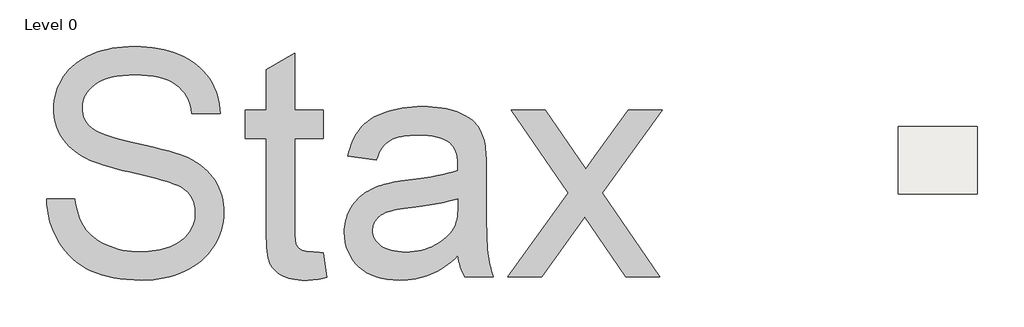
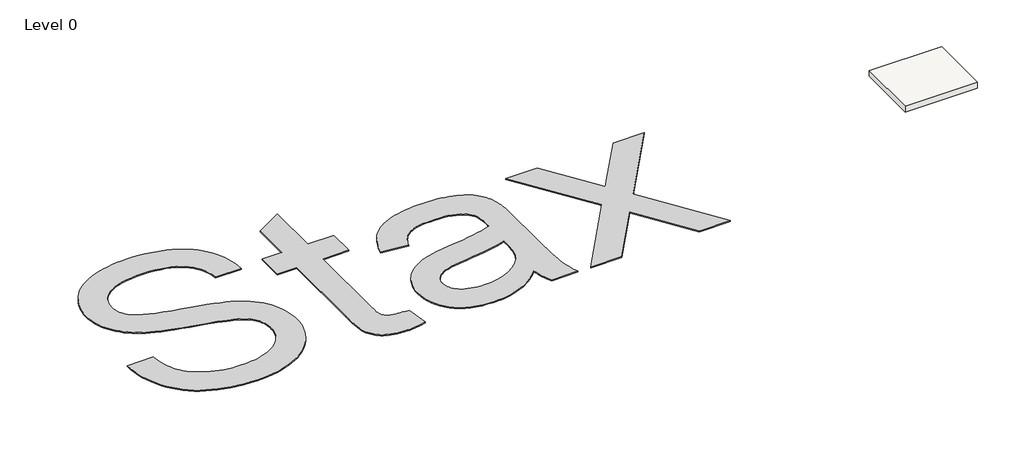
# One storey, incomplete: 1 proxy, 1 slab.
"""IFC4 building model written with IfcOpenShell, lengths in millimetres."""

import ifcopenshell
import ifcopenshell.guid

model = None  # the IFC model being written
_history = None  # IfcOwnerHistory: only IFC2X3 demands one
_inside = {}  # id of a spatial element -> (the spatial element, [elements in it])
_under = {}  # id of a project, library or spatial element -> (it, [spatial elements below it])
_declared = {}  # id of a project -> (the project, [libraries it declares])
_typed = {}  # id of a type object -> (the type object, [elements of that type])
_made_of = {}  # id of a material, layer set ... -> (it, [elements and type objects made of it])


def new_model(schema):
    """Start an empty IFC model of exactly this schema.

    Asked for "IFC4X3", IfcOpenShell would pick the latest addendum, in which some entities
    have other attributes; the version numbers below select the first issue.
    IFC2X3 requires an IfcOwnerHistory on every rooted entity: one is made here for all.
    """
    global model, _history
    if schema == "IFC4X3":
        model = ifcopenshell.file(schema_version=(4, 3, 0, 0))
    else:
        model = ifcopenshell.file(schema=schema)
    _inside.clear()
    _under.clear()
    _declared.clear()
    _typed.clear()
    _made_of.clear()
    _history = None
    if model.schema == "IFC2X3":
        org = make("IfcOrganization", Name="unknown")
        user = make(
            "IfcPersonAndOrganization",
            ThePerson=make("IfcPerson", FamilyName="unknown"),
            TheOrganization=org,
        )
        app = make(
            "IfcApplication",
            ApplicationDeveloper=org,
            Version="unknown",
            ApplicationFullName="unknown",
            ApplicationIdentifier="unknown",
        )
        _history = make(
            "IfcOwnerHistory",
            OwningUser=user,
            OwningApplication=app,
            ChangeAction="ADDED",
            CreationDate=0,
        )
    return model


def make(cls, **values):
    """One entity of the class cls with the attributes given. An attribute that is None is left unset."""
    return model.create_entity(
        cls, **{name: value for name, value in values.items() if value is not None}
    )


def rooted(cls, **values):
    """An entity with a GlobalId (a new one), such as an element, a storey or a relation."""
    return make(cls, GlobalId=ifcopenshell.guid.new(), OwnerHistory=_history, **values)


def si_unit(unit_type, name, prefix=None):
    """IfcSIUnit, for example si_unit("LENGTHUNIT", "METRE", prefix="MILLI")."""
    return make("IfcSIUnit", UnitType=unit_type, Prefix=prefix, Name=name)


def assignment(units):
    """IfcUnitAssignment: the units of a project."""
    return None if units is None else make("IfcUnitAssignment", Units=units)


def point(xyz):
    """IfcCartesianPoint."""
    return None if xyz is None else make("IfcCartesianPoint", Coordinates=xyz)


def direction(xyz):
    """IfcDirection."""
    return None if xyz is None else make("IfcDirection", DirectionRatios=xyz)


def frame(location, z_axis=None, x_axis=None):
    """IfcAxis2Placement3D, a coordinate frame: its origin and axes. An axis left out is left unset."""
    return make(
        "IfcAxis2Placement3D",
        Location=point(location),
        Axis=direction(z_axis),
        RefDirection=direction(x_axis),
    )


def origin():
    """The frame at (0, 0, 0) with its axes left unset."""
    return frame((0.0, 0.0, 0.0))


def origin_with_axes():
    """The frame at (0, 0, 0) with the z axis (0, 0, 1) and the x axis (1, 0, 0) written out."""
    return frame((0.0, 0.0, 0.0), z_axis=(0.0, 0.0, 1.0), x_axis=(1.0, 0.0, 0.0))


def place(relative_to, where):
    """IfcLocalPlacement: puts the frame where relative to a parent placement (None: the world)."""
    return make(
        "IfcLocalPlacement", PlacementRelTo=relative_to, RelativePlacement=where
    )


def context(
    kind, dimensions, precision=None, world=None, true_north=None, identifier=None
):
    """IfcGeometricRepresentationContext, for example the 3D "Model" context."""
    return make(
        "IfcGeometricRepresentationContext",
        ContextIdentifier=identifier,
        ContextType=kind,
        CoordinateSpaceDimension=dimensions,
        Precision=precision,
        WorldCoordinateSystem=world,
        TrueNorth=true_north,
    )


def project(units=None, contexts=None):
    """IfcProject with its units and contexts."""
    return rooted(
        "IfcProject",
        Name="project",
        RepresentationContexts=contexts,
        UnitsInContext=assignment(units),
    )


def spatial(cls, under=None, at=None, **own):
    """A site, building, storey or space (cls), placed at a placement, below another one or the project."""
    s = rooted(cls, ObjectPlacement=at, **own)
    if under is not None:
        _under.setdefault(under.id(), (under, []))[1].append(s)
    return s


def polyline(points):
    """IfcPolyline through the points."""
    return make("IfcPolyline", Points=[point(p) for p in points])


def outline(outer, holes=None, kind="AREA"):
    """IfcArbitraryClosedProfileDef: a profile drawn as a closed curve; with holes, ...WithVoids."""
    if holes is None:
        return make("IfcArbitraryClosedProfileDef", ProfileType=kind, OuterCurve=outer)
    return make(
        "IfcArbitraryProfileDefWithVoids",
        ProfileType=kind,
        OuterCurve=outer,
        InnerCurves=holes,
    )


def extrude(swept, where, along, depth):
    """IfcExtrudedAreaSolid: the profile swept, set in the frame where, extruded along a direction by depth."""
    return make(
        "IfcExtrudedAreaSolid",
        SweptArea=swept,
        Position=where,
        ExtrudedDirection=direction(along),
        Depth=depth,
    )


def shape(context_of_items, identifier, shape_type, items):
    """IfcShapeRepresentation: the items that make up one representation, for example the "Body"."""
    return make(
        "IfcShapeRepresentation",
        ContextOfItems=context_of_items,
        RepresentationIdentifier=identifier,
        RepresentationType=shape_type,
        Items=items,
    )


def made_of(thing, what):
    """Note that an element or type object is made of a material, layer set ...; save() writes the relation."""
    if what is not None:
        _made_of.setdefault(what.id(), (what, []))[1].append(thing)
    return thing


def element(
    cls,
    number,
    at=None,
    inside=None,
    cuts=None,
    type_object=None,
    material=None,
    context=None,
    identifier="Body",
    shape_type=None,
    held_by="IfcProductDefinitionShape",
    body=None,
    shapes=None,
    **own,
):
    """One element of the class cls, such as IfcWall. Its Tag is "e" and its number.

    at: its placement. inside: the storey or other place that contains it. cuts: it is an
    opening in that element (IfcRelVoidsElement). A single representation is given by context,
    identifier, shape_type and body (its items); several are given by shapes. held_by: the class
    of the entity that holds the representations. save() writes the other relations.
    """
    e = rooted(cls, Tag="e%d" % number, ObjectPlacement=at, **own)
    if body is not None:
        shapes = [shape(context, identifier, shape_type, body)]
    if shapes is not None:
        e.Representation = make(held_by, Representations=shapes)
    if inside is not None:
        _inside.setdefault(inside.id(), (inside, []))[1].append(e)
    if cuts is not None:
        rooted(
            "IfcRelVoidsElement", RelatingBuildingElement=cuts, RelatedOpeningElement=e
        )
    if type_object is not None:
        _typed.setdefault(type_object.id(), (type_object, []))[1].append(e)
    return made_of(e, material)


def aggregate(whole, parts):
    """IfcRelAggregates: a whole, such as a stair, and the parts it consists of."""
    return rooted("IfcRelAggregates", RelatingObject=whole, RelatedObjects=parts)


def save(model, path):
    """Write the relations noted so far, then the file.

    IfcRelAggregates (storeys below a building ...), IfcRelContainedInSpatialStructure (elements
    in a storey), IfcRelDefinesByType, IfcRelAssociatesMaterial and IfcRelDeclares: one each for
    every whole, place, type object, material and project.
    """
    for whole, parts in _under.values():
        aggregate(whole, parts)
    for where, things in _inside.values():
        rooted(
            "IfcRelContainedInSpatialStructure",
            RelatedElements=things,
            RelatingStructure=where,
        )
    for kind, things in _typed.values():
        rooted("IfcRelDefinesByType", RelatedObjects=things, RelatingType=kind)
    for what, things in _made_of.values():
        rooted("IfcRelAssociatesMaterial", RelatedObjects=things, RelatingMaterial=what)
    for by, libraries in _declared.values():
        rooted("IfcRelDeclares", RelatingContext=by, RelatedDefinitions=libraries)
    model.write(path)


model = new_model("IFC4")

# Units and contexts
model_context = context("Model", 3, world=origin())
ifc_project = project(units=[si_unit("LENGTHUNIT", "METRE", prefix="MILLI")], contexts=[model_context])

# Site, building, storey
site = spatial("IfcSite", under=ifc_project)
building = spatial("IfcBuilding", under=site)
storey = spatial("IfcBuildingStorey", under=building, Name="Level 0", Elevation=0.0)

# Proxy
placement = place(None, origin())
element("IfcBuildingElementProxy", 1, Name="10 mm", ObjectType="10 mm", at=placement, inside=storey, context=model_context, shape_type="SweptSolid", body=[
    extrude(outline(polyline([(-142754.6679386, 74163.6124008), (-141498.9640618, 74163.6124008), (-141473.8637798, 73976.5865594), (-141441.4825, 73798.1063102), (-141401.8202224, 73628.1716531), (-141354.876947, 73466.7825883), (-141300.6526737, 73313.9391156), (-141239.1474027, 73169.6412351), (-141170.3611338, 73033.8889468), (-141094.2938671, 72906.6822506), (-141009.1061926, 72786.6990707), (-140912.9587003, 72672.6173312), (-140805.8513902, 72564.437032), (-140687.7842624, 72462.1581731), (-140558.7573168, 72365.7807546), (-140418.7705534, 72275.3047764), (-140267.8239723, 72190.7302385), (-140105.9175734, 72112.057141), (-139935.9254348, 72041.0674123), (-139760.7216345, 71979.5429807), (-139580.3061727, 71927.4838463), (-139394.6790493, 71884.890009), (-139203.8402643, 71851.7614689), (-139007.7898178, 71828.098226), (-138806.5277096, 71813.9002803), (-138600.0539398, 71809.1676317), (-138416.9943261, 71812.750649), (-138239.3763003, 71823.4997011), (-138067.1998624, 71841.4147878), (-137900.4650123, 71866.4959093), (-137739.17175, 71898.7430654), (-137583.3200756, 71938.1562562), (-137432.909989, 71984.7354818), (-137287.9414903, 72038.480742), (-137150.2348289, 72098.4914925), (-137021.6102542, 72163.8671887), (-136902.0677663, 72234.6078307), (-136791.6073651, 72310.7134184), (-136690.2290507, 72392.1839519), (-136597.9328231, 72479.0194312), (-136514.7186822, 72571.2198563), (-136440.5866281, 72668.7852271), (-136375.3450555, 72769.6653679), (-136318.8023593, 72871.8101032), (-136270.9585394, 72975.2194327), (-136231.8135958, 73079.8933567), (-136201.3675286, 73185.831875), (-136179.6203377, 73293.0349876), (-136166.5720232, 73401.5026946), (-136162.2225851, 73511.234996), (-136165.4798736, 73621.6570761), (-136175.2517391, 73728.5152994), (-136191.5381816, 73831.8096659), (-136214.339201, 73931.5401755), (-136243.6547975, 74027.7068283), (-136279.484971, 74120.3096243), (-136321.8297215, 74209.3485634), (-136370.689049, 74294.8236457), (-136429.6268103, 74376.9647975), (-136502.2068623, 74456.0019449), (-136588.4292049, 74531.935088), (-136688.2938382, 74604.7642267), (-136801.8007621, 74674.4893611), (-136928.9499767, 74741.1104911), (-137069.7414819, 74804.6276169), (-137224.1752778, 74865.0407383), (-137342.8747028, 74906.3316601), (-137492.9590605, 74952.9492067), (-137674.428351, 75004.893378), (-137887.2825741, 75062.164174), (-138407.1458185, 75192.6856402), (-139052.5487938, 75344.5136053), (-139393.1270472, 75425.2751996), (-139706.6889665, 75505.0787678), (-139993.2345518, 75583.92431), (-140252.7638031, 75661.8118262), (-140485.2767204, 75738.7413163), (-140690.7733036, 75814.7127804), (-140869.2535528, 75889.7262185), (-141020.717468, 75963.7816305), (-141194.0626977, 76061.002112), (-141356.0265782, 76163.8174654), (-141506.6091095, 76272.2276909), (-141645.8102915, 76386.2327883), (-141773.6301243, 76505.8327578), (-141890.0686079, 76631.0275993), (-141995.1257422, 76761.8173128), (-142088.8015274, 76898.2018983), (-142171.2875685, 77039.4915771), (-142242.7754708, 77184.9965704), (-142303.2652342, 77334.7168782), (-142352.7568589, 77488.6525005), (-142391.2503447, 77646.8034374), (-142418.7456918, 77809.1696888), (-142435.2429, 77975.7512548), (-142440.7419694, 78146.5481353), (-142433.9399846, 78335.0684973), (-142413.5340302, 78520.4848549), (-142379.5241062, 78702.7972083), (-142331.9102125, 78882.0055573), (-142270.6923492, 79058.1099019), (-142195.8705164, 79231.1102423), (-142107.4447139, 79401.0065783), (-142005.4149418, 79567.79891), (-141890.3176946, 79728.0575041), (-141762.6894671, 79878.3526275), (-141622.530259, 80018.6842803), (-141469.8400705, 80149.0524623), (-141304.6189015, 80269.4571737), (-141126.8667521, 80379.8984143), (-140936.5836222, 80480.3761842), (-140733.7695118, 80570.8904835), (-140521.739191, 80651.0772621), (-140303.8074299, 80720.5724703), (-140079.9742285, 80779.3761079), (-139850.2395867, 80827.4881751), (-139614.6035046, 80864.9086718), (-139373.0659821, 80891.637598), (-139125.6270193, 80907.6749537), (-138872.2866162, 80913.020739), (-138594.9955623, 80907.425867), (-138325.9818534, 80890.6412509), (-138065.2454893, 80862.6668909), (-137812.7864701, 80823.5027868), (-137568.6047958, 80773.1489387), (-137332.7004664, 80711.6053466), (-137105.0734819, 80638.8720105), (-136885.7238422, 80554.9489303), (-136676.7208837, 80460.1809955), (-136480.1339426, 80354.9130955), (-136295.9630187, 80239.1452301), (-136124.2081122, 80112.8773995), (-135964.8692231, 79976.1096036), (-135817.9463512, 79828.8418424), (-135683.4394968, 79671.0741159), (-135561.3486596, 79502.8064241), (-135452.1720133, 79326.4146717), (-135356.4077315, 79144.274763), (-135274.055814, 78956.3866982), (-135205.1162609, 78762.7504772), (-135149.5890723, 78563.3661), (-135107.4742481, 78358.2335666), (-135078.7717882, 78147.3528771), (-135063.4816928, 77930.7240314), (-136319.1855697, 77930.7240314), (-136353.3679384, 78137.5810116), (-136403.1852919, 78331.4088378), (-136468.6376302, 78512.20751), (-136549.7249533, 78679.9770283), (-136646.4472612, 78834.7173925), (-136758.8045539, 78976.4286027), (-136886.7968314, 79105.1106589), (-137030.4240937, 79220.7635612), (-137190.9509351, 79323.0807411), (-137369.6419501, 79411.7556303), (-137566.4971385, 79486.7882289), (-137781.5165005, 79548.1785369), (-138014.700036, 79595.9265542), (-138266.047745, 79630.0322808), (-138535.5596275, 79650.4957168), (-138823.2356835, 79657.3168621), (-139121.1817786, 79650.5723589), (-139398.2045851, 79630.3388491), (-139654.3041032, 79596.6163329), (-139889.4803329, 79549.4048102), (-140103.733274, 79488.704281), (-140297.0629267, 79414.5147453), (-140469.4692909, 79326.8362031), (-140620.9523666, 79225.6686544), (-140753.1599586, 79114.9591665), (-140867.7398717, 78998.6548066), (-140964.6921058, 78876.7555746), (-141044.0166611, 78749.2614707), (-141105.7135373, 78616.1724947), (-141149.7827347, 78477.4886467), (-141176.2242531, 78333.2099268), (-141185.0380925, 78183.3363348), (-141178.7917628, 78053.8495367), (-141160.0527737, 77930.2641789), (-141128.8211252, 77812.5802615), (-141085.0968172, 77700.7977844), (-141028.8798498, 77594.9167477), (-140960.170223, 77494.9371513), (-140878.9679368, 77400.8589952), (-140785.2729911, 77312.6822795), (-140667.3974685, 77226.6132211), (-140509.9746314, 77140.0843101), (-140313.0044798, 77053.0955467), (-140076.4870137, 76965.6469307), (-139800.4222332, 76877.7384623), (-139484.8101382, 76789.3701414), (-139129.6507287, 76700.541968), (-138734.9440047, 76611.253942), (-138337.5548078, 76523.0772263), (-137974.3479796, 76437.5829835), (-137645.3235202, 76354.7712135), (-137350.4814295, 76274.6419165), (-137089.8217075, 76197.1950923), (-136863.3443542, 76122.430741), (-136671.0493696, 76050.3488625), (-136512.9367538, 75980.949457), (-136313.6865003, 75877.0611144), (-136127.9635743, 75766.5049106), (-135955.7679758, 75649.2808457), (-135797.0997048, 75525.3889196), (-135651.9587614, 75394.8291324), (-135520.3451456, 75257.601484), (-135402.2588572, 75113.7059744), (-135297.6998964, 74963.1426037), (-135206.0168054, 74806.2945822), (-135126.5581266, 74643.5451203), (-135059.3238598, 74474.8942182), (-135004.3140052, 74300.3418757), (-134961.5285628, 74119.8880928), (-134930.9675325, 73933.5328697), (-134912.6309143, 73741.2762061), (-134906.5187082, 73543.1181023), (-134913.5506192, 73345.2857273), (-134934.6463524, 73150.3274303), (-134969.8059077, 72958.2432115), (-135019.029285, 72769.0330708), (-135082.3164845, 72582.6970081), (-135159.6675061, 72399.2350235), (-135251.0823498, 72218.647117), (-135356.5610156, 72040.9332886), (-135475.2412801, 71869.5615925), (-135606.2609198, 71708.000083), (-135749.6199348, 71556.24876), (-135905.3183251, 71414.3076235), (-136073.3560906, 71282.1766736), (-136253.7332314, 71159.8559102), (-136446.4497474, 71047.3453333), (-136651.5056386, 70944.644943), (-136866.0076666, 70852.961852), (-137087.0625925, 70773.5031732), (-137314.6704165, 70706.2689064), (-137548.8311385, 70651.2590519), (-137789.5447586, 70608.4736094), (-138036.8112767, 70577.9125791), (-138290.6306929, 70559.5759609), (-138551.0030071, 70553.4637548), (-138878.9736379, 70560.0549739), (-139193.3402991, 70579.8286311), (-139494.1029906, 70612.7847265), (-139781.2617126, 70658.9232601), (-140054.816465, 70718.2442318), (-140314.7672477, 70790.7476417), (-140561.1140608, 70876.4334897), (-140793.8569043, 70975.3017759), (-141013.723878, 71087.4291424), (-141221.4430816, 71212.8922312), (-141417.0145152, 71351.6910423), (-141600.4381788, 71503.8255757), (-141771.7140722, 71669.2958314), (-141930.8421957, 71848.1018095), (-142077.8225491, 72040.2435099), (-142212.6551324, 72245.7209326), (-142333.7879435, 72461.3151102), (-142439.6689803, 72683.8070752), (-142530.2982426, 72913.1968276), (-142605.6757306, 73149.4843674), (-142665.8014442, 73392.6696947), (-142710.6753834, 73642.7528093), (-142740.2975482, 73899.7337113), (-142754.6679386, 74163.6124008)])), origin_with_axes(), (0.0, 0.0, 1.0), 50.0),
    extrude(outline(polyline([(-130511.5551391, 71757.6641523), (-130354.5921545, 70673.6385399), (-130610.116857, 70621.0620714), (-130732.7058677, 70600.4070302), (-130851.8459847, 70583.5074511), (-130967.537208, 70570.363334), (-131079.7795375, 70560.9746789), (-131188.5729734, 70555.3414858), (-131293.9175156, 70553.4637548), (-131458.9662398, 70556.7210433), (-131614.4347039, 70566.4929088), (-131760.3229076, 70582.7793513), (-131896.630851, 70605.5803708), (-132023.3585341, 70634.8959673), (-132140.505957, 70670.7261408), (-132248.0731195, 70713.0708913), (-132346.0600218, 70761.9302187), (-132435.8079002, 70816.0778499), (-132518.6579912, 70874.2875114), (-132594.6102948, 70936.5592033), (-132663.6648109, 71002.8929256), (-132725.8215397, 71073.2886782), (-132781.0804811, 71147.7464612), (-132829.441635, 71226.2662745), (-132870.9050015, 71308.8481182), (-132906.5435698, 71405.1488947), (-132937.430329, 71524.8255062), (-132963.5652791, 71667.8779529), (-132984.94842, 71834.3062347), (-133001.5797519, 72024.1103516), (-133013.4592747, 72237.2903036), (-133020.5869883, 72473.8460907), (-133022.9628929, 72733.7777129), (-133022.9628929, 76831.9831392), (-133964.7408005, 76831.9831392), (-133964.7408005, 78087.687016), (-133022.9628929, 78087.687016), (-133022.9628929, 79880.4986059), (-131767.259016, 80618.7151428), (-131767.259016, 78087.687016), (-130511.5551391, 78087.687016), (-130511.5551391, 76831.9831392), (-131767.259016, 76831.9831392), (-131767.259016, 72770.5659124), (-131763.1203436, 72541.5593704), (-131750.7043262, 72357.3118045), (-131741.3923132, 72281.9726376), (-131730.010964, 72217.8232146), (-131716.5602786, 72164.8635358), (-131701.0402569, 72123.0936009), (-131662.7958578, 72054.4989372), (-131639.8223936, 72023.0182019), (-131614.2814197, 71993.4151976), (-131555.4969425, 71939.842382), (-131486.4424264, 71893.7804906), (-131447.2974828, 71873.9493518), (-131404.0521879, 71856.7623648), (-131356.7065415, 71842.2195297), (-131305.2605437, 71830.3208464), (-131249.7141946, 71821.066315), (-131190.067494, 71814.4559354), (-131058.4730386, 71809.1676317), (-130947.0354509, 71805.9486642), (-130818.7366051, 71796.2917618), (-130673.5765012, 71780.1969246), (-130511.5551391, 71757.6641523)])), origin_with_axes(), (0.0, 0.0, 1.0), 50.0),
    extrude(outline(polyline([(-124546.961724, 71652.2046471), (-124695.2833138, 71506.92958), (-124844.7162139, 71372.7676149), (-124995.2604241, 71249.7187517), (-125146.9159445, 71137.7829905), (-125299.6827751, 71036.9603312), (-125453.5609159, 70947.2507738), (-125608.5503669, 70868.6543184), (-125764.651128, 70801.1709649), (-125922.7445834, 70743.1145875), (-126083.7121168, 70692.7990605), (-126247.5537283, 70650.2243837), (-126414.2694179, 70615.3905573), (-126583.8591855, 70588.2975812), (-126756.3230313, 70568.9454554), (-126931.6609551, 70557.33418), (-127109.8729571, 70553.4637548), (-127398.0280261, 70562.7757678), (-127668.9769477, 70590.7118068), (-127922.7197217, 70637.2718718), (-128159.2563483, 70702.4559628), (-128378.5868274, 70786.2640799), (-128580.711159, 70888.6962229), (-128765.6293432, 71009.7523919), (-128933.3413798, 71149.432587), (-129082.5060326, 71303.5981356), (-129211.7820649, 71468.1103653), (-129321.1694769, 71642.9692761), (-129410.6682686, 71828.1748681), (-129480.2784399, 72023.7271412), (-129529.9999908, 72229.6260953), (-129559.8329213, 72445.8717306), (-129569.7772315, 72672.464047), (-129566.0217695, 72807.0858646), (-129554.7553834, 72938.718641), (-129535.9780732, 73067.3623762), (-129509.6898389, 73193.0170702), (-129475.8906806, 73315.682723), (-129434.5805983, 73435.3593345), (-129385.7595918, 73552.0469049), (-129329.4276613, 73665.745434), (-129266.9835247, 73775.1903276), (-129199.8259001, 73879.1169912), (-129127.9547874, 73977.5254249), (-129051.3701866, 74070.4156287), (-128970.0720978, 74157.7876025), (-128884.0605209, 74239.6413465), (-128793.3354559, 74315.9768605), (-128697.8969029, 74386.7941445), (-128598.5879247, 74452.7829774), (-128496.2515843, 74514.6331379), (-128390.8878816, 74572.3446259), (-128282.4968167, 74625.9174414), (-128171.0783895, 74675.3515845), (-128056.6326001, 74720.6470552), (-127939.1594484, 74761.8038534), (-127818.6589345, 74798.8219791), (-127615.5574163, 74847.4130593), (-127366.777217, 74895.0844345), (-127072.3183367, 74941.8361048), (-126732.1807754, 74987.66807), (-126374.6454613, 75034.1131719), (-126041.4823294, 75082.7042521), (-125732.6913797, 75133.4413106), (-125448.2726122, 75186.3243474), (-125188.2260269, 75241.3533625), (-124952.5516237, 75298.5283559), (-124741.2494027, 75357.8493276), (-124554.3193639, 75419.3162777), (-124546.961724, 75698.906594), (-124552.3649908, 75857.172494), (-124568.5747912, 76003.328945), (-124595.5911252, 76137.375947), (-124633.4139929, 76259.3135), (-124682.0433941, 76369.141604), (-124741.479329, 76466.8602589), (-124811.7217974, 76552.4694649), (-124892.7707995, 76625.9692219), (-125016.3944783, 76711.0419332), (-125154.2735844, 76784.7716164), (-125306.4081178, 76847.1582715), (-125472.7980785, 76898.2018983), (-125653.4434666, 76937.9024969), (-125848.3442819, 76966.2600674), (-126057.5005246, 76983.2746097), (-126280.9121946, 76988.9461238), (-126489.0720902, 76985.1715012), (-126683.1298427, 76973.8476335), (-126863.085452, 76954.9745208), (-127028.9389181, 76928.5521629), (-127180.6902411, 76894.5805599), (-127318.339421, 76853.0597118), (-127441.8864577, 76803.9896186), (-127551.3313513, 76747.3702803), (-127650.3912427, 76681.1323606), (-127742.7832729, 76603.2065234), (-127828.507442, 76513.5927686), (-127907.56375, 76412.2910963), (-127979.9521967, 76299.3015064), (-128045.6727823, 76174.623999), (-128104.7255067, 76038.258574), (-128157.11037, 75890.2052315), (-129412.8142469, 76047.1682161), (-129368.3809997, 76232.6420553), (-129317.2415702, 76408.9188447), (-129259.3959586, 76575.9985842), (-129194.8441647, 76733.8812738), (-129123.5861887, 76882.5669135), (-129045.6220304, 77022.0555033), (-128960.95169, 77152.3470433), (-128869.5751673, 77273.4415334), (-128769.5955709, 77386.6035679), (-128659.1160093, 77493.0977413), (-128538.1364823, 77592.9240536), (-128406.6569901, 77686.0825046), (-128264.6775326, 77772.5730945), (-128112.1981098, 77852.3958233), (-127949.2187217, 77925.5506909), (-127775.7393683, 77992.0376973), (-127593.465336, 78051.2437059), (-127404.1019111, 78102.55558), (-127207.6490936, 78145.9733196), (-127004.1068835, 78181.4969248), (-126793.4752807, 78209.1263955), (-126575.7542853, 78228.8617317), (-126350.9438973, 78240.7029334), (-126119.0441167, 78244.6500006), (-125890.3249825, 78241.1627859), (-125672.6039872, 78230.7011416), (-125465.8811306, 78213.2650679), (-125270.1564129, 78188.8545647), (-125085.4298339, 78157.469632), (-124911.7013938, 78119.1102698), (-124748.9710925, 78073.7764781), (-124597.23893, 78021.4682569), (-124455.8534486, 77963.8908925), (-124324.1631907, 77902.7496714), (-124202.1681561, 77838.0445934), (-124089.868345, 77769.7756585), (-123987.2637573, 77697.9428669), (-123894.354393, 77622.5462184), (-123811.1402521, 77543.5857131), (-123737.6213346, 77461.0613509), (-123671.5175386, 77373.9767849), (-123610.5487621, 77281.3356678), (-123554.7150051, 77183.1379999), (-123504.0162677, 77079.3837809), (-123458.4525497, 76970.073011), (-123418.0238513, 76855.2056901), (-123382.7301724, 76734.7818182), (-123352.571513, 76608.8013954), (-123338.2011226, 76521.8892741), (-123325.7467842, 76420.5684412), (-123306.5862636, 76174.7006411), (-123295.0899513, 75871.1979951), (-123291.2578471, 75510.0605032), (-123291.2578471, 73947.788297), (-123287.2724589, 73199.8382155), (-123275.316294, 72586.9314831), (-123266.3491704, 72331.1193728), (-123255.3893526, 72109.0680998), (-123242.4368407, 71920.7776641), (-123227.4916346, 71766.2480656), (-123209.6340295, 71629.307825), (-123187.9443202, 71493.7854629), (-123162.4225067, 71359.6809793), (-123133.0685892, 71226.9943743), (-123099.8825676, 71095.7256478), (-123062.8644418, 70965.8747998), (-123022.0142119, 70837.4418303), (-122977.3318779, 70710.4267394), (-124233.0357548, 70710.4267394), (-124291.5903057, 70813.1271297), (-124344.6266267, 70920.1194767), (-124392.1447177, 71031.4037802), (-124434.1445788, 71146.9800404), (-124470.62621, 71266.8482571), (-124501.5896113, 71391.0084305), (-124527.0347826, 71519.4605605), (-124546.961724, 71652.2046471)]), holes=[polyline([(-124546.961724, 74163.6124008), (-124726.1509125, 74108.2384963), (-124926.4933157, 74054.9339281), (-125147.9889336, 74003.698696), (-125390.6377663, 73954.5328002), (-125654.4398137, 73907.4362406), (-125939.3950758, 73862.4090173), (-126245.5035526, 73819.4511301), (-126572.7652441, 73778.5625792), (-126926.3151699, 73731.810909), (-127224.2229439, 73682.3001238), (-127352.311024, 73656.5100631), (-127466.4885662, 73630.0302236), (-127566.7555704, 73602.8606054), (-127653.1120366, 73575.0012085), (-127730.233132, 73545.1491175), (-127802.7940234, 73512.0014168), (-127870.794711, 73475.5581067), (-127934.2351946, 73435.819187), (-127993.1154744, 73392.7846578), (-128047.4355502, 73346.454519), (-128097.1954222, 73296.8287707), (-128142.3950902, 73243.9074129), (-128182.6321834, 73188.6101505), (-128217.5043309, 73131.8566885), (-128247.0115326, 73073.647027), (-128271.1537885, 73013.9811659), (-128289.9310987, 72952.8591052), (-128303.3434631, 72890.280845), (-128311.3908817, 72826.2463852), (-128314.0733546, 72760.7557259), (-128308.2293958, 72661.0826978), (-128290.6975195, 72565.6249843), (-128261.4777256, 72474.3825852), (-128220.5700142, 72387.3555008), (-128167.9743852, 72304.5437308), (-128103.6908386, 72225.9472754), (-128027.7193745, 72151.5661345), (-127940.0599929, 72081.4003081), (-127841.0959041, 72017.5957746), (-127731.2103185, 71962.2985122), (-127610.4032362, 71915.5085209), (-127478.6746572, 71877.2258008), (-127336.0245815, 71847.4503518), (-127182.453009, 71826.1821739), (-127017.9599398, 71813.4212672), (-126842.5453739, 71809.1676317), (-126666.5751529, 71813.8619592), (-126495.5100251, 71827.9449418), (-126329.3499906, 71851.4165796), (-126168.0950494, 71884.2768724), (-126011.7452015, 71926.5258202), (-125860.3004468, 71978.1634232), (-125713.7607854, 72039.1896813), (-125572.1262172, 72109.6045944), (-125437.5427207, 72186.6873687), (-125312.156274, 72267.7172102), (-125195.9668772, 72352.694119), (-125088.9745302, 72441.618095), (-124991.1792332, 72534.4891383), (-124902.580986, 72631.3072488), (-124823.1797887, 72732.0724266), (-124752.9756413, 72836.7846715), (-124706.4155763, 72923.8500771), (-124666.0635199, 73020.7256691), (-124631.9194723, 73127.4114477), (-124603.9834333, 73243.9074129), (-124582.2554029, 73370.2135645), (-124566.7353813, 73506.3299028), (-124557.4233682, 73652.2564275), (-124554.3193639, 73807.9931388), (-124546.961724, 74163.6124008)])]), origin_with_axes(), (0.0, 0.0, 1.0), 50.0),
    extrude(outline(polyline([(-122349.4799395, 70710.4267394), (-119666.3939213, 74418.6772508), (-122192.5169549, 78087.687016), (-120681.748228, 78087.687016), (-119462.8325507, 76321.8534392), (-118893.8417315, 75487.9875834), (-118400.8798579, 76169.7955478), (-117012.7384628, 78087.687016), (-115501.9697359, 78087.687016), (-118155.6251945, 74418.6772508), (-115600.0716013, 70710.4267394), (-117110.8403282, 70710.4267394), (-118648.587068, 72939.7916302), (-118930.629931, 73346.9143715), (-120838.7112126, 70710.4267394), (-122349.4799395, 70710.4267394)])), origin_with_axes(), (0.0, 0.0, 1.0), 50.0),
])

# Slab
element("IfcSlab", 2, ObjectType="FL_300 mm_Generic", at=placement, inside=storey, context=model_context, shape_type="SweptSolid", body=[
    extrude(outline(polyline([(-101547.8885325, 77369.9753886), (-101547.8885325, 74369.9753886), (-105047.8885325, 74369.9753886), (-105047.8885325, 77369.9753886), (-101547.8885325, 77369.9753886)])), frame((0.0, 0.0, -300.0), z_axis=(0.0, 0.0, 1.0), x_axis=(1.0, 0.0, 0.0)), (0.0, 0.0, 1.0), 300.0),
])

save(model, "model.ifc")
